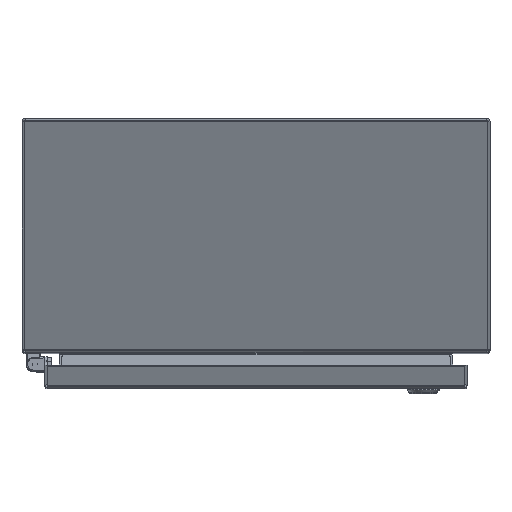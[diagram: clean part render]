
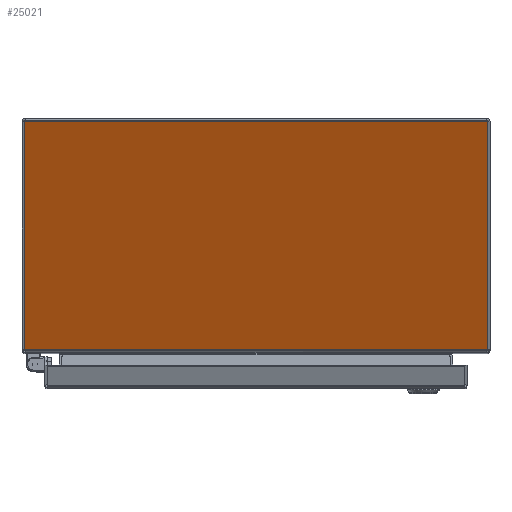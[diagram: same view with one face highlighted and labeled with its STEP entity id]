
A CAD part, top view. The second image highlights one B-rep face of the part: STEP entity #25021.
In plain terms, the highlighted planar face has unit normal (0, -0.423, 0.906) as drawn and (0, 0, 1) by its records, which use the part's own axes.
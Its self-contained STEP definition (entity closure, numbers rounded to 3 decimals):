
#3635=ORIENTED_EDGE('',*,*,#10651,.T.);
#3636=ORIENTED_EDGE('',*,*,#10663,.T.);
#3637=ORIENTED_EDGE('',*,*,#10660,.F.);
#3638=ORIENTED_EDGE('',*,*,#10655,.F.);
#3639=ORIENTED_EDGE('',*,*,#10659,.T.);
#3640=ORIENTED_EDGE('',*,*,#10666,.T.);
#10651=EDGE_CURVE('',#14193,#14191,#16624,.T.);
#10655=EDGE_CURVE('',#14196,#14197,#16628,.T.);
#10659=EDGE_CURVE('',#14196,#14199,#16632,.T.);
#10660=EDGE_CURVE('',#14197,#14200,#16633,.T.);
#10663=EDGE_CURVE('',#14191,#14200,#16636,.T.);
#10666=EDGE_CURVE('',#14199,#14193,#16639,.T.);
#14191=VERTEX_POINT('',#35355);
#14193=VERTEX_POINT('',#35383);
#14196=VERTEX_POINT('',#35402);
#14197=VERTEX_POINT('',#35404);
#14199=VERTEX_POINT('',#35410);
#14200=VERTEX_POINT('',#35414);
#16624=LINE('',#35394,#18421);
#16628=LINE('',#35403,#18425);
#16632=LINE('',#35411,#18429);
#16633=LINE('',#35413,#18430);
#16636=LINE('',#35419,#18433);
#16639=LINE('',#35424,#18436);
#18421=VECTOR('',#28759,1000.);
#18425=VECTOR('',#28767,1000.);
#18429=VECTOR('',#28773,1000.);
#18430=VECTOR('',#28776,1000.);
#18433=VECTOR('',#28781,1000.);
#18436=VECTOR('',#28788,1000.);
#20185=EDGE_LOOP('',(#3635,#3636,#3637,#3638,#3639,#3640));
#22083=FACE_BOUND('',#20185,.T.);
#23880=PLANE('',#26683);
#25021=ADVANCED_FACE('',(#22083),#23880,.T.);
#26683=AXIS2_PLACEMENT_3D('',#35425,#28789,#28790);
#28759=DIRECTION('',(1.,0.,0.));
#28767=DIRECTION('',(1.,0.,0.));
#28773=DIRECTION('',(0.,-1.,0.));
#28776=DIRECTION('',(0.,-1.,0.));
#28781=DIRECTION('',(0.221,0.975,0.));
#28788=DIRECTION('',(0.221,-0.975,0.));
#28789=DIRECTION('',(0.,0.,1.));
#28790=DIRECTION('',(0.,-1.,0.));
#35355=CARTESIAN_POINT('',(200.408,-219.628,0.));
#35383=CARTESIAN_POINT('',(-200.408,-219.628,0.));
#35394=CARTESIAN_POINT('',(-201.371,-219.628,0.));
#35402=CARTESIAN_POINT('',(-201.371,0.,0.));
#35403=CARTESIAN_POINT('',(-201.371,0.,0.));
#35404=CARTESIAN_POINT('',(201.371,0.,0.));
#35410=CARTESIAN_POINT('',(-201.371,-215.369,0.));
#35411=CARTESIAN_POINT('',(-201.371,0.,0.));
#35413=CARTESIAN_POINT('',(201.371,0.,0.));
#35414=CARTESIAN_POINT('',(201.371,-215.369,0.));
#35419=CARTESIAN_POINT('',(199.795,-222.336,0.));
#35424=CARTESIAN_POINT('',(-201.371,-215.369,0.));
#35425=CARTESIAN_POINT('',(-201.371,0.,0.));
